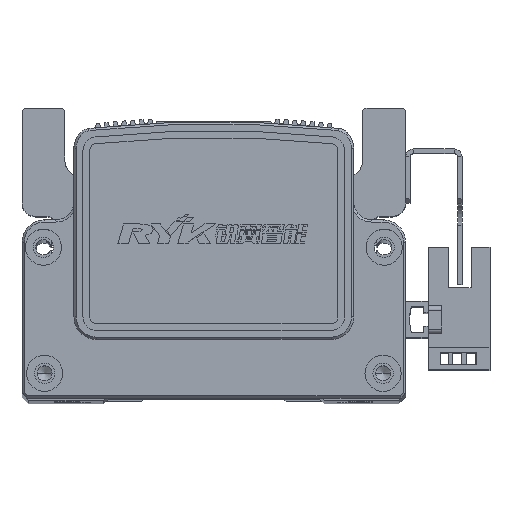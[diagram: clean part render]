
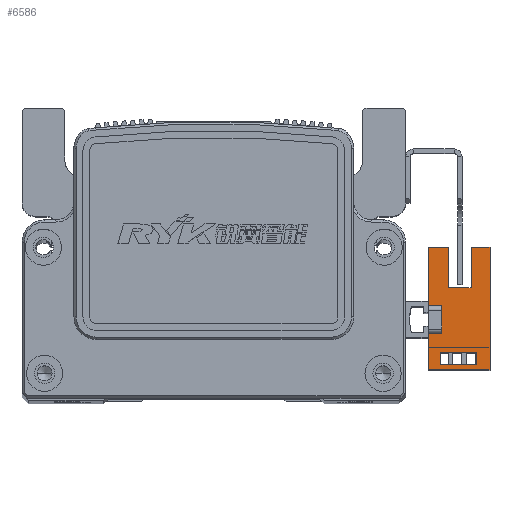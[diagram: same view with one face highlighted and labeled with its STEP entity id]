
A CAD part, top view. The second image highlights one B-rep face of the part: STEP entity #6586.
In plain terms, the highlighted planar face has unit normal (0, 0, 1) as drawn and (1, 0, 0) by its records, which use the part's own axes.
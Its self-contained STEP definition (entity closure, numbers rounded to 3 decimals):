
#747 = DIRECTION ( 'NONE',  ( 0., 0., 1. ) ) ;
#798 = CARTESIAN_POINT ( 'NONE',  ( 3.2, 16.1, 3. ) ) ;
#819 = DIRECTION ( 'NONE',  ( 0., 1., 0. ) ) ;
#822 = CARTESIAN_POINT ( 'NONE',  ( 3.2, -11.1, 3. ) ) ;
#836 = CARTESIAN_POINT ( 'NONE',  ( 3.2, 16.1, -10.7 ) ) ;
#874 = CARTESIAN_POINT ( 'NONE',  ( 3.2, 7.1, -6.5 ) ) ;
#889 = DIRECTION ( 'NONE',  ( 0., 0., 1. ) ) ;
#940 = CARTESIAN_POINT ( 'NONE',  ( 3.2, -9.83, -10.7 ) ) ;
#956 = CARTESIAN_POINT ( 'NONE',  ( 3.2, -7.33, -10.7 ) ) ;
#968 = DIRECTION ( 'NONE',  ( 0., 0., 1. ) ) ;
#1012 = DIRECTION ( 'NONE',  ( 0., 1., 0. ) ) ;
#1029 = DIRECTION ( 'NONE',  ( 0., 0., -1. ) ) ;
#1071 = CARTESIAN_POINT ( 'NONE',  ( 3.2, 25.1, -1.5 ) ) ;
#1095 = CARTESIAN_POINT ( 'NONE',  ( 3.2, 25.1, -6.5 ) ) ;
#1097 = CARTESIAN_POINT ( 'NONE',  ( 3.2, 16.1, -7.7 ) ) ;
#1101 = DIRECTION ( 'NONE',  ( 0., 1., 0. ) ) ;
#1103 = DIRECTION ( 'NONE',  ( 0., -1., 0. ) ) ;
#1109 = DIRECTION ( 'NONE',  ( 0., 1., 0. ) ) ;
#2372 = CARTESIAN_POINT ( 'NONE',  ( 3.2, 16.1, -10.7 ) ) ;
#2389 = CARTESIAN_POINT ( 'NONE',  ( 3.2, -3.1, 3. ) ) ;
#2412 = CARTESIAN_POINT ( 'NONE',  ( 3.2, -11.1, 3. ) ) ;
#2414 = CARTESIAN_POINT ( 'NONE',  ( 3.2, 7.1, -6.5 ) ) ;
#2427 = CARTESIAN_POINT ( 'NONE',  ( 3.2, 16.1, 3. ) ) ;
#2457 = CARTESIAN_POINT ( 'NONE',  ( 3.2, -9.83, -7.7 ) ) ;
#2493 = CARTESIAN_POINT ( 'NONE',  ( 3.2, 3.1, 3. ) ) ;
#2494 = CARTESIAN_POINT ( 'NONE',  ( 3.2, 16.1, -6.5 ) ) ;
#2511 = CARTESIAN_POINT ( 'NONE',  ( 3.2, 3.1, 0. ) ) ;
#2528 = CARTESIAN_POINT ( 'NONE',  ( 3.2, -7.33, -7.7 ) ) ;
#2540 = CARTESIAN_POINT ( 'NONE',  ( 3.2, -9.83, 0.3 ) ) ;
#2553 = CARTESIAN_POINT ( 'NONE',  ( 3.2, 16.1, -1.5 ) ) ;
#2558 = CARTESIAN_POINT ( 'NONE',  ( 3.2, 7.1, -1.5 ) ) ;
#2568 = CARTESIAN_POINT ( 'NONE',  ( 3.2, -11.1, -10.7 ) ) ;
#2598 = CARTESIAN_POINT ( 'NONE',  ( 3.2, -3.1, 0. ) ) ;
#2624 = CARTESIAN_POINT ( 'NONE',  ( 3.2, -7.33, 0.3 ) ) ;
#6586 = ADVANCED_FACE ( 'NONE', ( #48533, #48519 ), #51553, .T. ) ;
#13010 = EDGE_CURVE ( 'NONE', #45068, #45103, #26273, .T. ) ;
#13037 = EDGE_CURVE ( 'NONE', #45017, #45122, #26248, .T. ) ;
#13060 = EDGE_CURVE ( 'NONE', #45103, #45188, #26368, .T. ) ;
#13076 = EDGE_CURVE ( 'NONE', #45192, #45136, #26318, .T. ) ;
#13083 = EDGE_CURVE ( 'NONE', #45188, #45127, #26476, .T. ) ;
#13088 = EDGE_CURVE ( 'NONE', #45173, #45095, #26501, .T. ) ;
#13089 = EDGE_CURVE ( 'NONE', #45127, #45086, #26421, .T. ) ;
#13120 = EDGE_CURVE ( 'NONE', #45159, #45068, #26568, .T. ) ;
#13123 = EDGE_CURVE ( 'NONE', #45086, #45095, #26530, .T. ) ;
#13136 = EDGE_CURVE ( 'NONE', #45088, #45164, #26577, .T. ) ;
#13149 = EDGE_CURVE ( 'NONE', #45159, #45017, #26590, .T. ) ;
#13164 = EDGE_CURVE ( 'NONE', #45136, #45110, #26642, .T. ) ;
#13165 = EDGE_CURVE ( 'NONE', #45179, #45192, #26666, .T. ) ;
#13182 = EDGE_CURVE ( 'NONE', #45164, #45173, #26624, .T. ) ;
#13184 = EDGE_CURVE ( 'NONE', #45122, #45088, #26772, .T. ) ;
#13185 = EDGE_CURVE ( 'NONE', #45110, #45179, #26770, .T. ) ;
#15284 = AXIS2_PLACEMENT_3D ( 'NONE', #51544, #51552, #51532 ) ;
#24955 = CARTESIAN_POINT ( 'NONE',  ( 3.2, 16.1, 3. ) ) ;
#24960 = DIRECTION ( 'NONE',  ( 0., 1., 0. ) ) ;
#25000 = CARTESIAN_POINT ( 'NONE',  ( 3.2, 16.1, -10.7 ) ) ;
#25063 = DIRECTION ( 'NONE',  ( 0., 0., 1. ) ) ;
#25118 = DIRECTION ( 'NONE',  ( 0., 0., -1. ) ) ;
#25132 = CARTESIAN_POINT ( 'NONE',  ( 3.2, -3.1, 3. ) ) ;
#25178 = CARTESIAN_POINT ( 'NONE',  ( 3.2, 16.1, -10.7 ) ) ;
#25188 = DIRECTION ( 'NONE',  ( 0., 0., 1. ) ) ;
#25191 = DIRECTION ( 'NONE',  ( 0., 0., 1. ) ) ;
#25194 = CARTESIAN_POINT ( 'NONE',  ( 3.2, 3.1, 3. ) ) ;
#25200 = CARTESIAN_POINT ( 'NONE',  ( 3.2, 0., 0. ) ) ;
#25203 = DIRECTION ( 'NONE',  ( 0., 1., 0. ) ) ;
#25204 = CARTESIAN_POINT ( 'NONE',  ( 3.2, 16.1, 0.3 ) ) ;
#25215 = DIRECTION ( 'NONE',  ( 0., -1., 0. ) ) ;
#26198 = VECTOR ( 'NONE', #24960, 1000. ) ;
#26248 = LINE ( 'NONE', #25000, #26287 ) ;
#26273 = LINE ( 'NONE', #24955, #26198 ) ;
#26287 = VECTOR ( 'NONE', #25063, 1000. ) ;
#26301 = VECTOR ( 'NONE', #25118, 1000. ) ;
#26318 = LINE ( 'NONE', #25204, #26393 ) ;
#26368 = LINE ( 'NONE', #25132, #26301 ) ;
#26393 = VECTOR ( 'NONE', #25215, 1000. ) ;
#26421 = LINE ( 'NONE', #25194, #26465 ) ;
#26440 = VECTOR ( 'NONE', #25203, 1000. ) ;
#26449 = VECTOR ( 'NONE', #25191, 1000. ) ;
#26465 = VECTOR ( 'NONE', #25188, 1000. ) ;
#26476 = LINE ( 'NONE', #25200, #26440 ) ;
#26501 = LINE ( 'NONE', #25178, #26449 ) ;
#26530 = LINE ( 'NONE', #798, #26602 ) ;
#26540 = VECTOR ( 'NONE', #889, 1000. ) ;
#26568 = LINE ( 'NONE', #822, #26608 ) ;
#26577 = LINE ( 'NONE', #874, #26540 ) ;
#26590 = LINE ( 'NONE', #836, #26669 ) ;
#26602 = VECTOR ( 'NONE', #819, 1000. ) ;
#26608 = VECTOR ( 'NONE', #747, 1000. ) ;
#26624 = LINE ( 'NONE', #1071, #26647 ) ;
#26642 = LINE ( 'NONE', #940, #26661 ) ;
#26647 = VECTOR ( 'NONE', #1101, 1000. ) ;
#26661 = VECTOR ( 'NONE', #1029, 1000. ) ;
#26666 = LINE ( 'NONE', #956, #26667 ) ;
#26667 = VECTOR ( 'NONE', #968, 1000. ) ;
#26669 = VECTOR ( 'NONE', #1012, 1000. ) ;
#26748 = VECTOR ( 'NONE', #1103, 1000. ) ;
#26770 = LINE ( 'NONE', #1097, #26792 ) ;
#26772 = LINE ( 'NONE', #1095, #26748 ) ;
#26792 = VECTOR ( 'NONE', #1109, 1000. ) ;
#45017 = VERTEX_POINT ( 'NONE', #2372 ) ;
#45068 = VERTEX_POINT ( 'NONE', #2412 ) ;
#45086 = VERTEX_POINT ( 'NONE', #2493 ) ;
#45088 = VERTEX_POINT ( 'NONE', #2414 ) ;
#45095 = VERTEX_POINT ( 'NONE', #2427 ) ;
#45103 = VERTEX_POINT ( 'NONE', #2389 ) ;
#45110 = VERTEX_POINT ( 'NONE', #2457 ) ;
#45122 = VERTEX_POINT ( 'NONE', #2494 ) ;
#45127 = VERTEX_POINT ( 'NONE', #2511 ) ;
#45136 = VERTEX_POINT ( 'NONE', #2540 ) ;
#45159 = VERTEX_POINT ( 'NONE', #2568 ) ;
#45164 = VERTEX_POINT ( 'NONE', #2558 ) ;
#45173 = VERTEX_POINT ( 'NONE', #2553 ) ;
#45179 = VERTEX_POINT ( 'NONE', #2528 ) ;
#45188 = VERTEX_POINT ( 'NONE', #2598 ) ;
#45192 = VERTEX_POINT ( 'NONE', #2624 ) ;
#47993 = ORIENTED_EDGE ( 'NONE', *, *, #13184, .T. ) ;
#48007 = ORIENTED_EDGE ( 'NONE', *, *, #13182, .T. ) ;
#48050 = ORIENTED_EDGE ( 'NONE', *, *, #13136, .T. ) ;
#48051 = ORIENTED_EDGE ( 'NONE', *, *, #13088, .T. ) ;
#48072 = ORIENTED_EDGE ( 'NONE', *, *, #13149, .T. ) ;
#48074 = ORIENTED_EDGE ( 'NONE', *, *, #13123, .F. ) ;
#48080 = ORIENTED_EDGE ( 'NONE', *, *, #13185, .F. ) ;
#48081 = ORIENTED_EDGE ( 'NONE', *, *, #13010, .F. ) ;
#48082 = ORIENTED_EDGE ( 'NONE', *, *, #13037, .T. ) ;
#48084 = ORIENTED_EDGE ( 'NONE', *, *, #13083, .F. ) ;
#48085 = ORIENTED_EDGE ( 'NONE', *, *, #13120, .F. ) ;
#48086 = ORIENTED_EDGE ( 'NONE', *, *, #13165, .F. ) ;
#48088 = ORIENTED_EDGE ( 'NONE', *, *, #13060, .F. ) ;
#48097 = ORIENTED_EDGE ( 'NONE', *, *, #13164, .F. ) ;
#48111 = ORIENTED_EDGE ( 'NONE', *, *, #13076, .F. ) ;
#48115 = ORIENTED_EDGE ( 'NONE', *, *, #13089, .F. ) ;
#48519 = FACE_BOUND ( 'NONE', #50883, .T. ) ;
#48533 = FACE_OUTER_BOUND ( 'NONE', #50865, .T. ) ;
#50865 = EDGE_LOOP ( 'NONE', ( #47993, #48050, #48007, #48051, #48074, #48115, #48084, #48088, #48081, #48085, #48072, #48082 ) ) ;
#50883 = EDGE_LOOP ( 'NONE', ( #48111, #48086, #48080, #48097 ) ) ;
#51532 = DIRECTION ( 'NONE',  ( 0., 1., 0. ) ) ;
#51544 = CARTESIAN_POINT ( 'NONE',  ( 3.2, 16.1, -10.7 ) ) ;
#51552 = DIRECTION ( 'NONE',  ( 1., 0., 0. ) ) ;
#51553 = PLANE ( 'NONE',  #15284 ) ;
